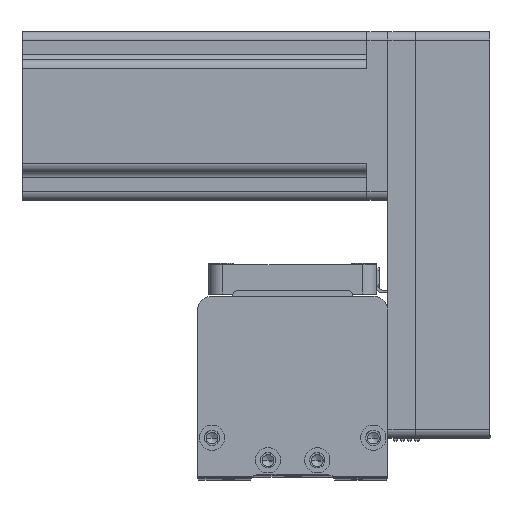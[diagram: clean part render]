
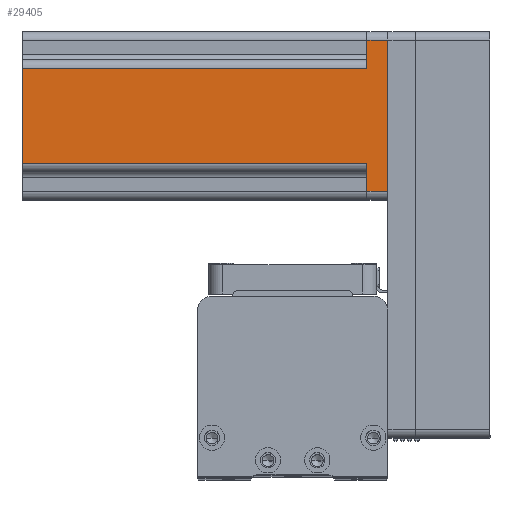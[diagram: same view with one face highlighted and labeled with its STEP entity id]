
A CAD part, top view. The second image highlights one B-rep face of the part: STEP entity #29405.
In plain terms, the highlighted planar face has unit normal (0, 0, 1) as drawn and (0, -1, 0) by its records, which use the part's own axes.
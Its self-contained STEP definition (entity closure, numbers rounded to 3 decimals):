
#198 = EDGE_CURVE ( 'NONE', #15649, #31494, #40340, .T. ) ;
#991 = VERTEX_POINT ( 'NONE', #4370 ) ;
#1534 = VECTOR ( 'NONE', #34360, 1000. ) ;
#1785 = LINE ( 'NONE', #34842, #9702 ) ;
#2252 = CARTESIAN_POINT ( 'NONE',  ( 30., -30., 130.7 ) ) ;
#2317 = CARTESIAN_POINT ( 'NONE',  ( -27., -30., 0. ) ) ;
#2632 = LINE ( 'NONE', #29664, #37547 ) ;
#3075 = LINE ( 'NONE', #32865, #27938 ) ;
#4273 = DIRECTION ( 'NONE',  ( 1., 0., 0. ) ) ;
#4370 = CARTESIAN_POINT ( 'NONE',  ( -27., -30., 7.5 ) ) ;
#5623 = DIRECTION ( 'NONE',  ( -1., 0., 0. ) ) ;
#6027 = LINE ( 'NONE', #35234, #31973 ) ;
#6207 = CARTESIAN_POINT ( 'NONE',  ( -17., -30., 7.5 ) ) ;
#7743 = DIRECTION ( 'NONE',  ( -1., 0., 0. ) ) ;
#8905 = PLANE ( 'NONE',  #30321 ) ;
#9702 = VECTOR ( 'NONE', #24655, 1000. ) ;
#9764 = ORIENTED_EDGE ( 'NONE', *, *, #198, .T. ) ;
#10796 = CARTESIAN_POINT ( 'NONE',  ( 17., -30., 130.7 ) ) ;
#10858 = VERTEX_POINT ( 'NONE', #33601 ) ;
#11213 = ORIENTED_EDGE ( 'NONE', *, *, #21061, .F. ) ;
#11476 = CARTESIAN_POINT ( 'NONE',  ( 27., -30., 0. ) ) ;
#11528 = DIRECTION ( 'NONE',  ( 0., 0., 1. ) ) ;
#11847 = ORIENTED_EDGE ( 'NONE', *, *, #34948, .T. ) ;
#14101 = CARTESIAN_POINT ( 'NONE',  ( -20., -30., 7.5 ) ) ;
#14403 = VECTOR ( 'NONE', #11528, 1000. ) ;
#14701 = ORIENTED_EDGE ( 'NONE', *, *, #37872, .T. ) ;
#15649 = VERTEX_POINT ( 'NONE', #25172 ) ;
#17742 = CARTESIAN_POINT ( 'NONE',  ( 30., -30., 0. ) ) ;
#18451 = ORIENTED_EDGE ( 'NONE', *, *, #23667, .F. ) ;
#19111 = EDGE_CURVE ( 'NONE', #10858, #39328, #3075, .T. ) ;
#19886 = EDGE_LOOP ( 'NONE', ( #11213, #27814, #18451, #24746, #14701, #11847, #43392, #9764 ) ) ;
#21061 = EDGE_CURVE ( 'NONE', #10858, #31494, #6027, .T. ) ;
#21230 = CARTESIAN_POINT ( 'NONE',  ( 20., -30., 7.5 ) ) ;
#23667 = EDGE_CURVE ( 'NONE', #991, #39328, #38602, .T. ) ;
#24655 = DIRECTION ( 'NONE',  ( 0., 0., 1. ) ) ;
#24746 = ORIENTED_EDGE ( 'NONE', *, *, #28286, .T. ) ;
#25172 = CARTESIAN_POINT ( 'NONE',  ( 17., -30., 7.5 ) ) ;
#25891 = DIRECTION ( 'NONE',  ( 0., 1., 0. ) ) ;
#26626 = VECTOR ( 'NONE', #7743, 1000. ) ;
#26948 = VERTEX_POINT ( 'NONE', #34331 ) ;
#27814 = ORIENTED_EDGE ( 'NONE', *, *, #19111, .T. ) ;
#27938 = VECTOR ( 'NONE', #36729, 1000. ) ;
#28265 = VERTEX_POINT ( 'NONE', #2317 ) ;
#28286 = EDGE_CURVE ( 'NONE', #991, #28265, #2632, .T. ) ;
#28301 = DIRECTION ( 'NONE',  ( 1., 0., 0. ) ) ;
#28715 = LINE ( 'NONE', #17742, #36623 ) ;
#29108 = FACE_OUTER_BOUND ( 'NONE', #19886, .T. ) ;
#29405 = ADVANCED_FACE ( 'NONE', ( #29108 ), #8905, .F. ) ;
#29664 = CARTESIAN_POINT ( 'NONE',  ( -27., -30., 130.7 ) ) ;
#30321 = AXIS2_PLACEMENT_3D ( 'NONE', #2252, #25891, #5623 ) ;
#31494 = VERTEX_POINT ( 'NONE', #10796 ) ;
#31779 = CARTESIAN_POINT ( 'NONE',  ( 17., -30., 130.7 ) ) ;
#31973 = VECTOR ( 'NONE', #28301, 1000. ) ;
#32865 = CARTESIAN_POINT ( 'NONE',  ( -17., -30., 130.7 ) ) ;
#33601 = CARTESIAN_POINT ( 'NONE',  ( -17., -30., 130.7 ) ) ;
#34331 = CARTESIAN_POINT ( 'NONE',  ( 27., -30., 7.5 ) ) ;
#34360 = DIRECTION ( 'NONE',  ( 1., 0., 0. ) ) ;
#34842 = CARTESIAN_POINT ( 'NONE',  ( 27., -30., 130.7 ) ) ;
#34948 = EDGE_CURVE ( 'NONE', #34977, #26948, #1785, .T. ) ;
#34977 = VERTEX_POINT ( 'NONE', #11476 ) ;
#35234 = CARTESIAN_POINT ( 'NONE',  ( 30., -30., 130.7 ) ) ;
#36623 = VECTOR ( 'NONE', #4273, 1000. ) ;
#36706 = LINE ( 'NONE', #21230, #26626 ) ;
#36729 = DIRECTION ( 'NONE',  ( 0., 0., -1. ) ) ;
#37268 = EDGE_CURVE ( 'NONE', #26948, #15649, #36706, .T. ) ;
#37547 = VECTOR ( 'NONE', #39860, 1000. ) ;
#37872 = EDGE_CURVE ( 'NONE', #28265, #34977, #28715, .T. ) ;
#38602 = LINE ( 'NONE', #14101, #1534 ) ;
#39328 = VERTEX_POINT ( 'NONE', #6207 ) ;
#39860 = DIRECTION ( 'NONE',  ( 0., 0., -1. ) ) ;
#40340 = LINE ( 'NONE', #31779, #14403 ) ;
#43392 = ORIENTED_EDGE ( 'NONE', *, *, #37268, .T. ) ;
